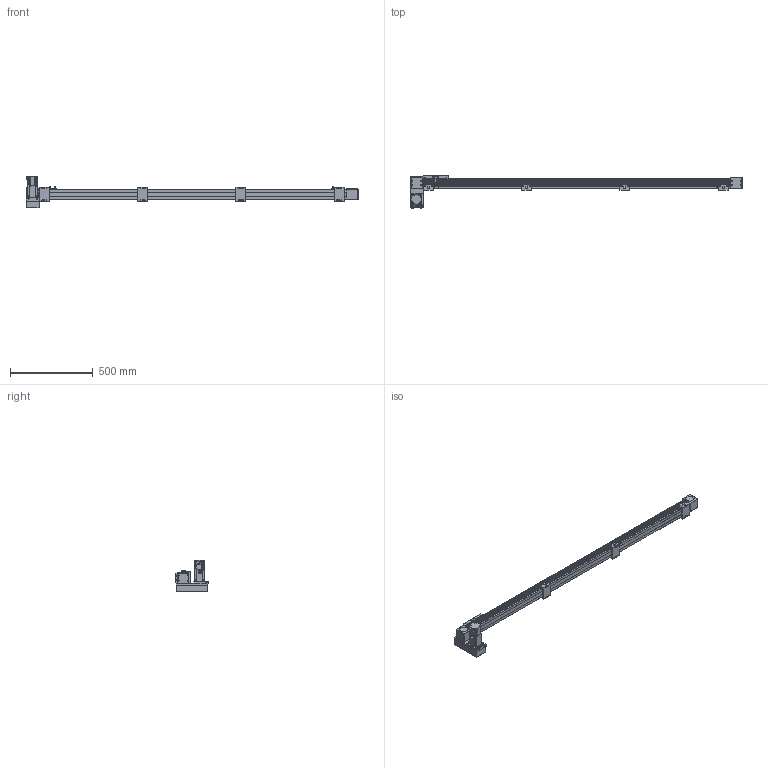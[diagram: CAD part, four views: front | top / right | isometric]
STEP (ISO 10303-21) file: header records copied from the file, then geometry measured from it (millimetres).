
FILE_DESCRIPTION(/* description */ ('STEP AP214'),/* implementation_level */ '2;1');
FILE_NAME(/* name */ 'SK60-P13-S1700-LD-T40-C1-N(0)',/* time_stamp */ '2023-04-06T04:39:15+02:00',/* author */ ('License CC BY-ND 4.0'),/* organization */ ('CADENAS'),/* preprocessor_version */ 'ST-DEVELOPER v19.3',/* originating_system */ 'PARTsolutions',/* authorisation */ ' ');
FILE_SCHEMA (('AUTOMOTIVE_DESIGN {1 0 10303 214 3 1 1}'));
Length unit declared in the file: millimetre
Products named in the file (10): SK60-P13-S1700-LD-T40-C1-N(0); PSC140-sensor; SK60-S450_seat; SK60-S450-BL-C1_slider; SK60_body3; SK60_body6; SK60-BL_body2; T40-p1; SK60-LD_fb; SK60-S1700-LD-C1_body
Assembly tree (18 placements, depth 2):
  SK60-P13-S1700-LD-T40-C1-N(0)
    PSC140-sensor  x3
    SK60-S450_seat  x4
    SK60-S450-BL-C1_slider
    SK60_body3  x3
    SK60_body6  x2
    SK60-BL_body2  x2
    T40-p1
    SK60-LD_fb
    SK60-S1700-LD-C1_body
Bounding box: 2005.5 x 199 x 189.7 mm (x, y, z)
Volume: 8017179.5 mm3; surface area: 970538.7 mm2
Topology: 18 solids, 18 shells, 898 faces, 2244 edges, 1477 vertices
Faces by surface type: plane 572, cylinder 294, cone 30, torus 2
Full cylindrical faces by diameter (mm): 2.8 x3, 3.3 x4, 4 x2, 4.5 x30, 4.6 x3, 4.917 x24, 5 x6, 5.478 x4, 5.5 x27, 6.5 x8, 7 x2, 8 x4, 8.5 x4, 9.988 x4, 10 x16, 14 x1, 47 x3, 50 x2
Entity records: 18671 total; most frequent: DIRECTION 3188, CARTESIAN_POINT 3152, ORIENTED_EDGE 2940, EDGE_CURVE 1470, AXIS2_PLACEMENT_3D 1070, LINE 1048, VECTOR 1048, VERTEX_POINT 1034
